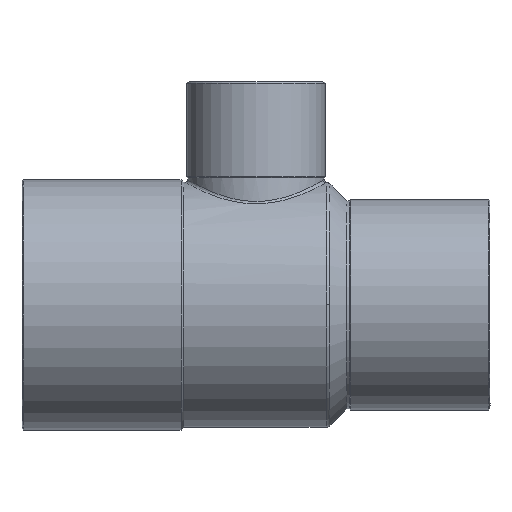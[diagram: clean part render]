
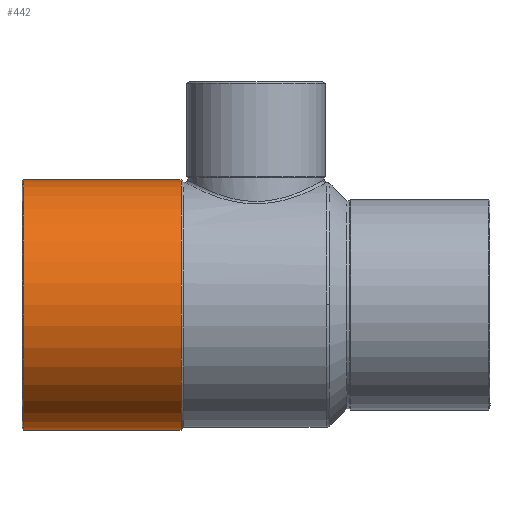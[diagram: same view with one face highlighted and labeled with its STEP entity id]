
A CAD part, top view. The second image highlights one B-rep face of the part: STEP entity #442.
In plain terms, the highlighted cylindrical face has radius 22.475 mm (diameter 44.95 mm), a partial arc.
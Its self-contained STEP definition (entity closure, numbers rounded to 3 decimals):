
#374=CARTESIAN_POINT('',(-13.462,22.475,0.0));
#375=VERTEX_POINT('',#374);
#384=CARTESIAN_POINT('',(-13.462,-22.475,0.));
#385=VERTEX_POINT('',#384);
#386=CARTESIAN_POINT('',(-13.462,0.0,0.0));
#387=DIRECTION('',(1.0,0.0,0.0));
#388=DIRECTION('',(0.0,1.0,0.0));
#389=AXIS2_PLACEMENT_3D('',#386,#387,#388);
#390=CIRCLE('',#389,22.475);
#391=EDGE_CURVE('',#375,#385,#390,.T.);
#411=CARTESIAN_POINT('',(-27.731,0.0,0.0));
#412=DIRECTION('',(1.0,0.0,0.0));
#413=DIRECTION('',(0.0,1.0,0.0));
#414=AXIS2_PLACEMENT_3D('',#411,#412,#413);
#415=CYLINDRICAL_SURFACE('',#414,22.475);
#416=CARTESIAN_POINT('',(-41.8,22.475,0.));
#417=VERTEX_POINT('',#416);
#418=CARTESIAN_POINT('',(-41.8,22.475,0.));
#419=DIRECTION('',(1.0,0.0,0.0));
#420=VECTOR('',#419,28.338);
#421=LINE('',#418,#420);
#422=EDGE_CURVE('',#417,#375,#421,.T.);
#423=ORIENTED_EDGE('',*,*,#422,.F.);
#424=CARTESIAN_POINT('',(-41.8,-22.475,0.));
#425=VERTEX_POINT('',#424);
#426=CARTESIAN_POINT('',(-41.8,0.0,0.0));
#427=DIRECTION('',(-1.0,0.0,0.0));
#428=DIRECTION('',(0.0,-1.0,0.0));
#429=AXIS2_PLACEMENT_3D('',#426,#427,#428);
#430=CIRCLE('',#429,22.475);
#431=EDGE_CURVE('',#425,#417,#430,.T.);
#432=ORIENTED_EDGE('',*,*,#431,.F.);
#433=CARTESIAN_POINT('',(-13.462,-22.475,0.));
#434=DIRECTION('',(-1.0,0.0,0.0));
#435=VECTOR('',#434,28.338);
#436=LINE('',#433,#435);
#437=EDGE_CURVE('',#385,#425,#436,.T.);
#438=ORIENTED_EDGE('',*,*,#437,.F.);
#439=ORIENTED_EDGE('',*,*,#391,.F.);
#440=EDGE_LOOP('',(#423,#432,#438,#439));
#441=FACE_OUTER_BOUND('',#440,.T.);
#442=ADVANCED_FACE('',(#441),#415,.T.);
